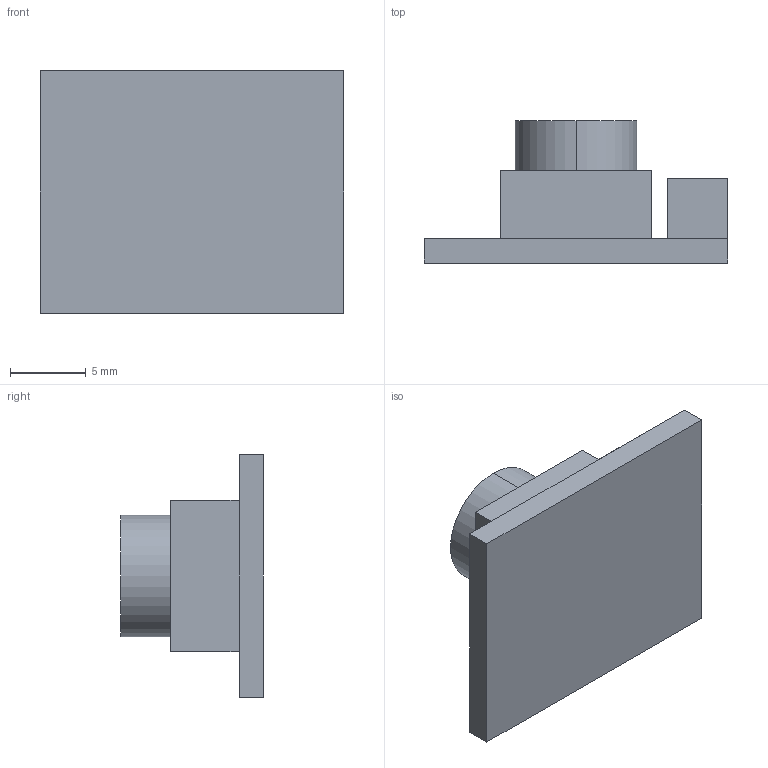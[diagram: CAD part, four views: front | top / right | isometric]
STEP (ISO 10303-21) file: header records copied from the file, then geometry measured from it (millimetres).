
FILE_DESCRIPTION(('Open CASCADE Model'),'2;1');
FILE_NAME('button-module-envelope.step','2026-11-14T14:32:02',('Author') ,('Open CASCADE'),'Open CASCADE STEP processor 8.0','Open CASCADE 8.0' ,'Unknown');
FILE_SCHEMA(('AP242_MANAGED_MODEL_BASED_3D_ENGINEERING_MIM_LF {1 0 10303 442 1 1 4 }' ));
Length unit declared in the file: millimetre
Products named in the file (1): Button Module Envelope
Bounding box: 20 x 9.4 x 16 mm (x, y, z)
Volume: 1255.9 mm3; surface area: 1478.7 mm2
Topology: 4 solids, 4 shells, 22 faces, 42 edges, 28 vertices
Faces by surface type: plane 20, cylinder 2
Entity records: 1106 total; most frequent: CARTESIAN_POINT 189, DIRECTION 174, LINE 118, VECTOR 118, ORIENTED_EDGE 84, PCURVE 84, DEFINITIONAL_REPRESENTATION 84, EDGE_CURVE 42
